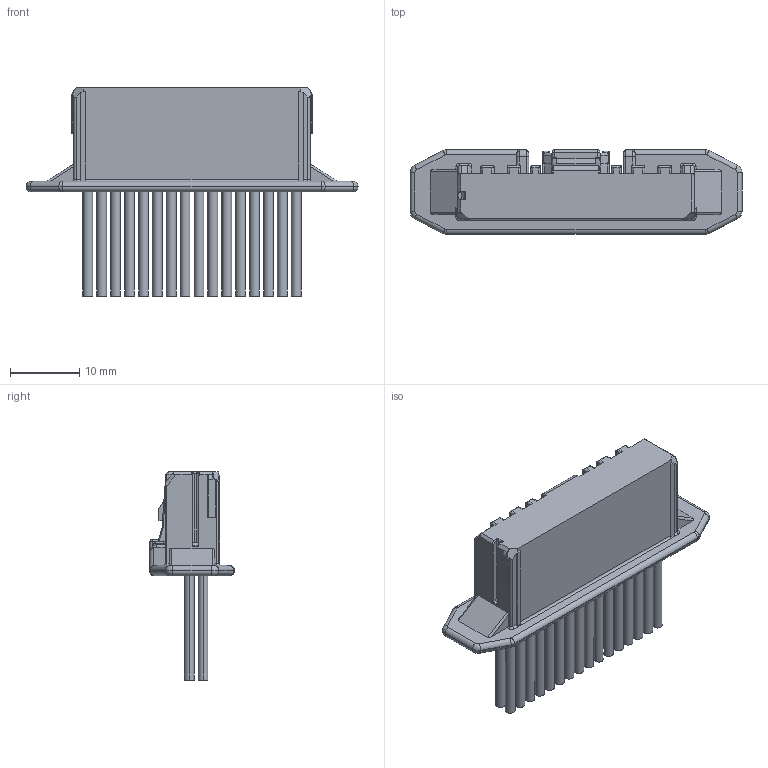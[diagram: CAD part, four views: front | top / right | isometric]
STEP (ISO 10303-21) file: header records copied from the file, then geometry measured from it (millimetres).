
FILE_DESCRIPTION (( 'STEP AP203' ), '1' );
FILE_NAME ('V0116-91032_ISH FEMALE HOUSING 32P WITH CABLE.STEP', '2025-11-21T01:13:40', ( '' ), ( '' ), 'SwSTEP 2.0', 'SolidWorks 2023', '' );
FILE_SCHEMA (( 'CONFIG_CONTROL_DESIGN' ));
Length unit declared in the file: millimetre
Products named in the file (1): V0116-91032_ISH FEMALE HOUSING 32P WITH CABLE
Bounding box: 47.8 x 12.2 x 29.95 mm (x, y, z)
Volume: 4981.8 mm3; surface area: 4698.2 mm2
Topology: 1 solids, 1 shells, 451 faces, 1117 edges, 688 vertices
Faces by surface type: cylinder 217, plane 169, torus 38, bspline 19, sphere 6, cone 2
Entity records: 14030 total; most frequent: CARTESIAN_POINT 3515, ORIENTED_EDGE 2210, DIRECTION 2182, EDGE_CURVE 1105, AXIS2_PLACEMENT_3D 800, VERTEX_POINT 688, LINE 582, VECTOR 582
